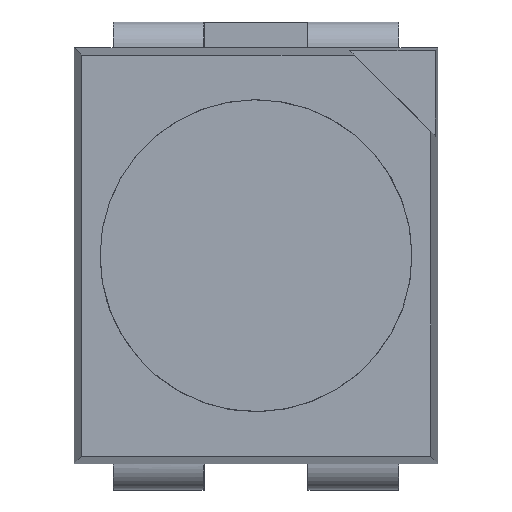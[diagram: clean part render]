
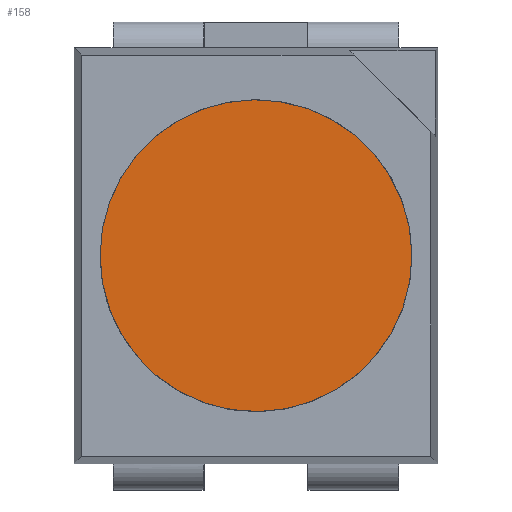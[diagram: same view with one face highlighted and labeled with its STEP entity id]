
A CAD part, top view. The second image highlights one B-rep face of the part: STEP entity #158.
In plain terms, the highlighted planar face has unit normal (0, 0, 1).
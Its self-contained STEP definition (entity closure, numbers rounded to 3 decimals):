
#158=ADVANCED_FACE('',(#338),#339,.F.);
#338=FACE_OUTER_BOUND('',#527,.T.);
#339=PLANE('',#528);
#527=EDGE_LOOP('',(#1244,#1245,#1246));
#528=AXIS2_PLACEMENT_3D('',#1247,#1248,#1249);
#1244=ORIENTED_EDGE('',*,*,#1555,.F.);
#1245=ORIENTED_EDGE('',*,*,#1556,.F.);
#1246=ORIENTED_EDGE('',*,*,#1329,.F.);
#1247=CARTESIAN_POINT('',(0.,0.,0.0));
#1248=DIRECTION('',(0.0,0.0,-1.0));
#1249=DIRECTION('',(0.,1.0,0.0));
#1329=EDGE_CURVE('',#1583,#1571,#1585,.T.);
#1555=EDGE_CURVE('',#1956,#1583,#1957,.T.);
#1556=EDGE_CURVE('',#1571,#1956,#1958,.T.);
#1571=VERTEX_POINT('',#1977);
#1583=VERTEX_POINT('',#1996);
#1585=CIRCLE('',#1999,1.2);
#1956=VERTEX_POINT('',#2566);
#1957=CIRCLE('',#2567,1.2);
#1958=CIRCLE('',#2568,1.2);
#1977=CARTESIAN_POINT('',(-0.746,-0.94,0.0));
#1996=CARTESIAN_POINT('',(0.746,0.94,0.0));
#1999=AXIS2_PLACEMENT_3D('',#2603,#2604,#2605);
#2566=CARTESIAN_POINT('',(-1.2,0.,0.0));
#2567=AXIS2_PLACEMENT_3D('',#2904,#2905,#2906);
#2568=AXIS2_PLACEMENT_3D('',#2907,#2908,#2909);
#2603=CARTESIAN_POINT('',(0.,0.,0.0));
#2604=DIRECTION('',(0.0,-0.0,-1.0));
#2605=DIRECTION('',(1.0,0.,0.0));
#2904=CARTESIAN_POINT('',(0.,0.,0.0));
#2905=DIRECTION('',(0.0,-0.0,-1.0));
#2906=DIRECTION('',(1.0,0.,0.0));
#2907=CARTESIAN_POINT('',(0.,0.,0.0));
#2908=DIRECTION('',(0.0,-0.0,-1.0));
#2909=DIRECTION('',(1.0,0.,0.0));
